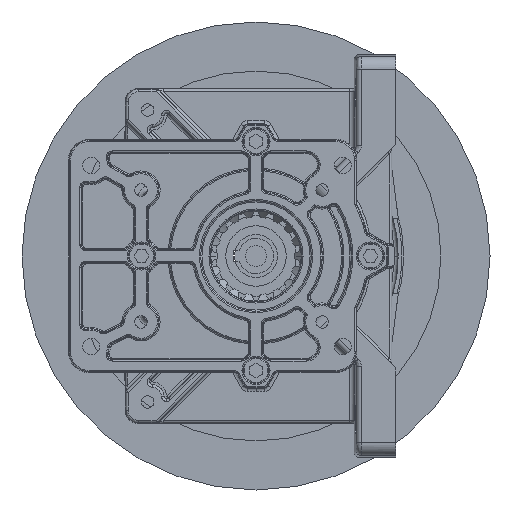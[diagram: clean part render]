
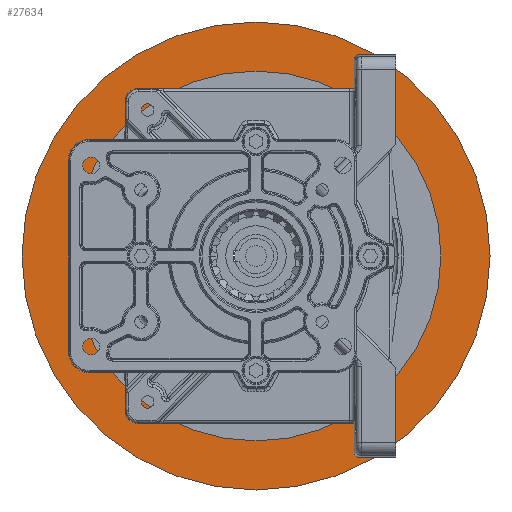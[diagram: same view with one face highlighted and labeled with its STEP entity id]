
A CAD part, front view. The second image highlights one B-rep face of the part: STEP entity #27634.
In plain terms, the highlighted planar face has unit normal (0, -1, 0).
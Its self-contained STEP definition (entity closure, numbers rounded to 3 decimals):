
#896 = AXIS2_PLACEMENT_3D ( 'NONE', #40003, #19941, #20160 ) ;
#1302 = DIRECTION ( 'NONE',  ( 0., 0., -1. ) ) ;
#2891 = CARTESIAN_POINT ( 'NONE',  ( 0., 68.15, 0. ) ) ;
#3280 = DIRECTION ( 'NONE',  ( 0., 0., -1. ) ) ;
#3926 = EDGE_CURVE ( 'NONE', #43348, #23509, #39685, .T. ) ;
#4256 = ORIENTED_EDGE ( 'NONE', *, *, #43675, .F. ) ;
#4826 = DIRECTION ( 'NONE',  ( 0., -1., 0. ) ) ;
#5288 = EDGE_CURVE ( 'NONE', #19892, #42990, #22376, .T. ) ;
#8204 = DIRECTION ( 'NONE',  ( 0., -1., 0. ) ) ;
#8630 = CARTESIAN_POINT ( 'NONE',  ( 0., 68.15, 0. ) ) ;
#9246 = DIRECTION ( 'NONE',  ( 0., -1., 0. ) ) ;
#9459 = CARTESIAN_POINT ( 'NONE',  ( 0., 68.15, 73.5 ) ) ;
#9793 = ORIENTED_EDGE ( 'NONE', *, *, #3926, .F. ) ;
#9899 = FACE_BOUND ( 'NONE', #20568, .T. ) ;
#13225 = PLANE ( 'NONE',  #40239 ) ;
#14152 = CARTESIAN_POINT ( 'NONE',  ( 0., 68.15, 93. ) ) ;
#17830 = CIRCLE ( 'NONE', #896, 93. ) ;
#17936 = DIRECTION ( 'NONE',  ( 0., 0., -1. ) ) ;
#19892 = VERTEX_POINT ( 'NONE', #20530 ) ;
#19941 = DIRECTION ( 'NONE',  ( 0., -1., 0. ) ) ;
#20160 = DIRECTION ( 'NONE',  ( 0., 0., -1. ) ) ;
#20420 = EDGE_LOOP ( 'NONE', ( #23548, #37325 ) ) ;
#20530 = CARTESIAN_POINT ( 'NONE',  ( 0., 68.15, -93. ) ) ;
#20568 = EDGE_LOOP ( 'NONE', ( #4256, #9793 ) ) ;
#20955 = CARTESIAN_POINT ( 'NONE',  ( 0., 68.15, 0. ) ) ;
#22376 = CIRCLE ( 'NONE', #34368, 93. ) ;
#23197 = DIRECTION ( 'NONE',  ( 0., -1., 0. ) ) ;
#23509 = VERTEX_POINT ( 'NONE', #34164 ) ;
#23548 = ORIENTED_EDGE ( 'NONE', *, *, #5288, .T. ) ;
#24694 = AXIS2_PLACEMENT_3D ( 'NONE', #2891, #23197, #28795 ) ;
#27021 = AXIS2_PLACEMENT_3D ( 'NONE', #20955, #4826, #1302 ) ;
#27634 = ADVANCED_FACE ( 'NONE', ( #9899, #39476 ), #13225, .T. ) ;
#28795 = DIRECTION ( 'NONE',  ( 0., 0., -1. ) ) ;
#33050 = EDGE_CURVE ( 'NONE', #42990, #19892, #17830, .T. ) ;
#34164 = CARTESIAN_POINT ( 'NONE',  ( 0., 68.15, -73.5 ) ) ;
#34368 = AXIS2_PLACEMENT_3D ( 'NONE', #8630, #8204, #17936 ) ;
#37325 = ORIENTED_EDGE ( 'NONE', *, *, #33050, .T. ) ;
#39476 = FACE_OUTER_BOUND ( 'NONE', #20420, .T. ) ;
#39685 = CIRCLE ( 'NONE', #27021, 73.5 ) ;
#40003 = CARTESIAN_POINT ( 'NONE',  ( 0., 68.15, 0. ) ) ;
#40239 = AXIS2_PLACEMENT_3D ( 'NONE', #9459, #9246, #3280 ) ;
#42299 = CIRCLE ( 'NONE', #24694, 73.5 ) ;
#42990 = VERTEX_POINT ( 'NONE', #14152 ) ;
#43348 = VERTEX_POINT ( 'NONE', #43459 ) ;
#43459 = CARTESIAN_POINT ( 'NONE',  ( 0., 68.15, 73.5 ) ) ;
#43675 = EDGE_CURVE ( 'NONE', #23509, #43348, #42299, .T. ) ;
